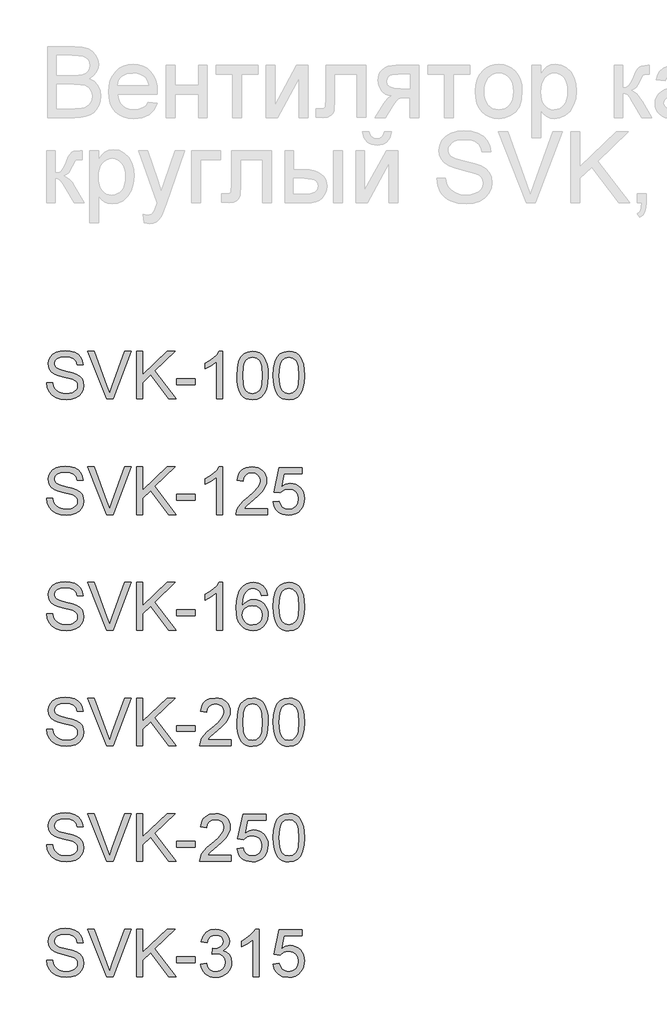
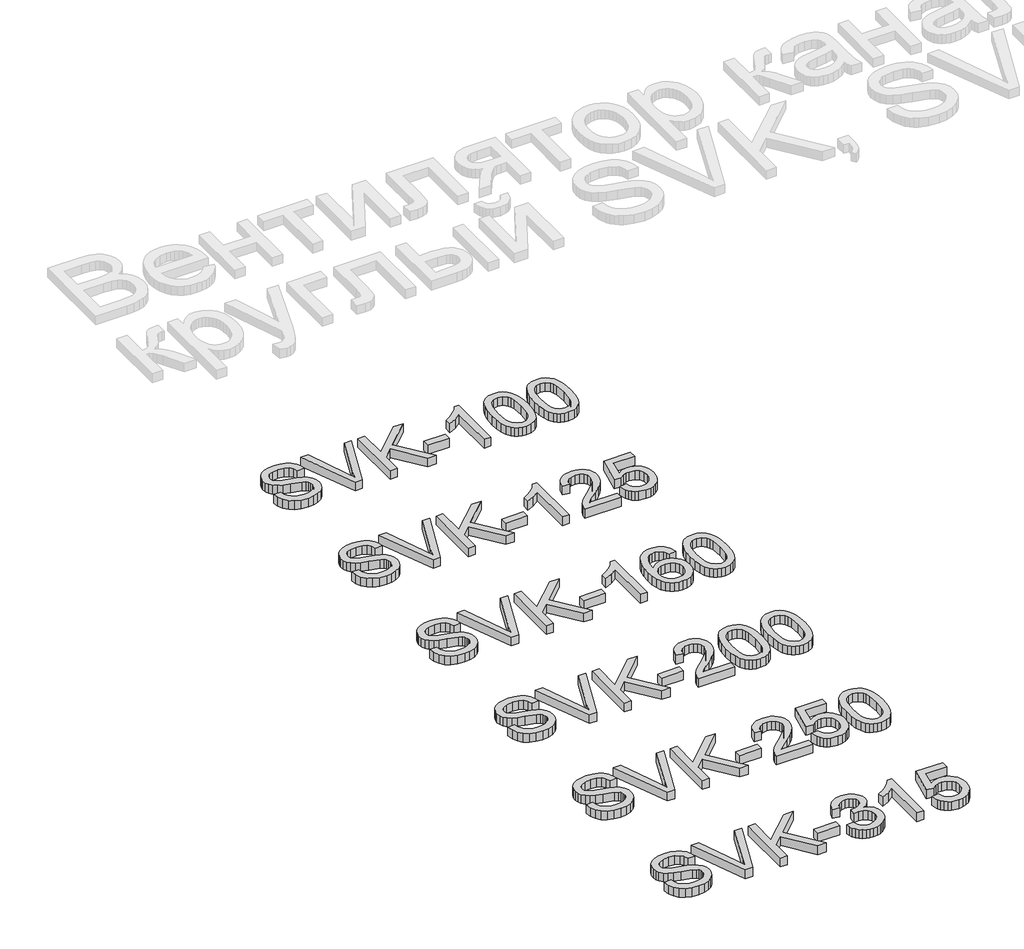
# One storey, part 15 of 31: 1 proxy.
"""IFC4 building model written with IfcOpenShell, lengths in millimetres."""

from ifc_helpers import new_model, si_unit, origin, origin_with_axes, place, context, project, spatial, polyline, outline, extrude, element, save

model = new_model("IFC4")

# Units and contexts
model_context = context("Model", 3, world=origin())
ifc_project = project(units=[si_unit("LENGTHUNIT", "METRE", prefix="MILLI")], contexts=[model_context])

# Site, building, storey
site = spatial("IfcSite", under=ifc_project)
building = spatial("IfcBuilding", under=site)
storey = spatial("IfcBuildingStorey", under=building, Name="Этаж 01", Elevation=0.0)

# Proxy
placement = place(None, origin())
element("IfcBuildingElementProxy", 1, Name="300 мм Arial", ObjectType="300 мм Arial", at=placement, inside=storey, context=model_context, shape_type="SweptSolid", body=[
    extrude(outline(polyline([(813.2877892, -4158.3827282), (850.9589055, -4158.3827282), (855.281519, -4179.2876225), (863.0990114, -4196.0906327), (875.2942995, -4209.426355), (892.7503002, -4219.9293859), (914.0874559, -4226.7443999), (937.9262092, -4229.0160712), (958.913877, -4227.2962229), (977.2895827, -4222.1366779), (992.1796064, -4213.9696976), (1002.7102286, -4203.2275434), (1008.9734195, -4190.8942995), (1011.0611498, -4177.9540503), (1009.4976514, -4165.3448949), (1004.8071559, -4154.4463908), (995.2790122, -4145.1481734), (979.2025691, -4137.339878), (924.3513636, -4122.955692), (888.3449133, -4113.4367454), (865.3063034, -4104.3776513), (846.5535186, -4091.7041165), (833.2637816, -4076.3450432), (825.3451216, -4058.6315252), (822.7055683, -4038.8946561), (825.970521, -4016.8309335), (835.7653791, -3996.2571329), (851.8326253, -3978.8195263), (873.914742, -3966.1643857), (900.4206398, -3958.4664549), (929.7592289, -3955.900478), (961.5442333, -3958.5860166), (989.3561121, -3966.6426323), (1012.201584, -3979.9047782), (1029.0873676, -3998.2069075), (1039.7743396, -4020.4085859), (1044.0233766, -4045.3693792), (1006.3522603, -4045.3693792), (999.4360788, -4022.8917893), (985.0151046, -4006.6681933), (962.4823324, -3996.8457441), (931.2307569, -3993.5715943), (899.2434174, -3996.8089559), (877.2992564, -4006.5210405), (864.6073276, -4020.8132561), (860.3766846, -4037.7910101), (863.3749229, -4052.2671666), (872.3696377, -4063.9106318), (893.633217, -4074.3216923), (933.8795073, -4084.9534819), (975.4133845, -4095.0518427), (1000.5397248, -4103.8626165), (1022.0148362, -4117.5294326), (1036.9968305, -4134.3968221), (1045.7984072, -4154.2808439), (1048.7322661, -4176.9975571), (1045.3569488, -4200.2201081), (1035.2309969, -4222.0631015), (1018.7682776, -4240.8618715), (996.3826582, -4254.9517519), (969.4628932, -4263.7533286), (939.3977372, -4266.6871875), (902.489976, -4263.5234024), (872.1121203, -4254.0320469), (847.914682, -4238.1763329), (829.5481734, -4215.9194722), (817.7575555, -4188.8065692), (813.2877892, -4158.3827282)])), origin_with_axes(), (0.0, 0.0, 1.0), 50.0),
    extrude(outline(polyline([(1194.2663834, -4261.978298), (1074.336853, -3960.6093675), (1114.6567197, -3960.6093675), (1194.928571, -4177.7333211), (1211.1889552, -4226.6616265), (1227.2286102, -4177.7333211), (1307.7211908, -3960.6093675), (1348.0410574, -3960.6093675), (1233.1882985, -4261.978298), (1194.2663834, -4261.978298)])), origin_with_axes(), (0.0, 0.0, 1.0), 50.0),
    extrude(outline(polyline([(1383.0634234, -4261.978298), (1383.0634234, -3960.6093675), (1420.7345397, -3960.6093675), (1420.7345397, -4108.1300476), (1575.2449776, -3960.6093675), (1627.9256794, -3960.6093675), (1498.2104879, -4084.5120235), (1632.6345689, -4261.978298), (1586.5757431, -4261.978298), (1471.502255, -4109.9694576), (1420.7345397, -4158.3827282), (1420.7345397, -4261.978298), (1383.0634234, -4261.978298)])), origin_with_axes(), (0.0, 0.0, 1.0), 50.0),
    extrude(outline(polyline([(1637.3434584, -4172.5093968), (1637.3434584, -4134.8382805), (1755.0656969, -4134.8382805), (1755.0656969, -4172.5093968), (1637.3434584, -4172.5093968)])), origin_with_axes(), (0.0, 0.0, 1.0), 50.0),
    extrude(outline(polyline([(1929.2946098, -4261.978298), (1891.6234935, -4261.978298), (1891.6234935, -4027.1224323), (1855.93894, -4052.5430781), (1816.2812609, -4071.5625773), (1816.2812609, -4035.9516002), (1845.8681703, -4019.8567629), (1871.5003484, -4000.708505), (1891.7062669, -3980.3462366), (1905.0143981, -3960.6093675), (1929.2946098, -3960.6093675), (1929.2946098, -4261.978298)])), origin_with_axes(), (0.0, 0.0, 1.0), 50.0),
    extrude(outline(polyline([(2018.763511, -4113.7218539), (2021.531823, -4065.4833273), (2029.8367591, -4027.0120677), (2043.5955457, -3997.7194638), (2062.7254095, -3977.0169045), (2087.3643061, -3964.7112518), (2117.6501913, -3960.6093675), (2140.8635452, -3963.0373887), (2161.648878, -3970.3214522), (2179.0313022, -3982.1764495), (2192.0359308, -3998.3172721), (2201.85838, -4018.6059641), (2209.6942665, -4042.9045699), (2214.8262204, -4073.7606722), (2216.5368716, -4113.7218539), (2213.7961508, -4161.6844691), (2205.5739882, -4200.0637582), (2191.897975, -4229.3839532), (2172.7957024, -4250.1692859), (2148.1016235, -4262.5577121), (2117.6501913, -4266.6871875), (2096.9016468, -4264.8937628), (2078.507547, -4259.5134886), (2062.4678921, -4250.546365), (2048.7826818, -4237.9923919), (2035.6492946, -4215.2986713), (2026.2683037, -4187.0223415), (2020.6397092, -4153.1634023), (2018.763511, -4113.7218539)]), holes=[polyline([(2056.4346273, -4113.6482775), (2060.8492113, -4172.9048699), (2066.3674412, -4193.1728686), (2074.0929631, -4207.2006689), (2093.811438, -4223.5622206), (2117.6501913, -4229.0160712), (2141.4889446, -4223.5438265), (2161.2074196, -4207.1270925), (2168.9329415, -4193.0762996), (2174.4511714, -4172.8128994), (2178.8657553, -4113.6482775), (2174.5983242, -4055.7252574), (2169.2640353, -4035.5239373), (2161.7960308, -4021.162744), (2142.114344, -4004.0010489), (2117.2087329, -3998.2804839), (2093.627497, -4003.3204672), (2074.6815743, -4018.4404172), (2066.698535, -4034.075402), (2060.9963641, -4055.1550403), (2056.4346273, -4113.6482775)])]), origin_with_axes(), (0.0, 0.0, 1.0), 50.0),
    extrude(outline(polyline([(2249.4990984, -4113.7218539), (2252.2674104, -4065.4833273), (2260.5723465, -4027.0120677), (2274.3311331, -3997.7194638), (2293.4609968, -3977.0169045), (2318.0998935, -3964.7112518), (2348.3857787, -3960.6093675), (2371.5991326, -3963.0373887), (2392.3844653, -3970.3214522), (2409.7668896, -3982.1764495), (2422.7715181, -3998.3172721), (2432.5939674, -4018.6059641), (2440.4298539, -4042.9045699), (2445.5618077, -4073.7606722), (2447.272459, -4113.7218539), (2444.5317381, -4161.6844691), (2436.3095756, -4200.0637582), (2422.6335624, -4229.3839532), (2403.5312898, -4250.1692859), (2378.8372109, -4262.5577121), (2348.3857787, -4266.6871875), (2327.6372342, -4264.8937628), (2309.2431344, -4259.5134886), (2293.2034794, -4250.546365), (2279.5182692, -4237.9923919), (2266.384882, -4215.2986713), (2257.0038911, -4187.0223415), (2251.3752966, -4153.1634023), (2249.4990984, -4113.7218539)]), holes=[polyline([(2287.1702147, -4113.6482775), (2291.5847987, -4172.9048699), (2297.1030286, -4193.1728686), (2304.8285505, -4207.2006689), (2324.5470254, -4223.5622206), (2348.3857787, -4229.0160712), (2372.224532, -4223.5438265), (2391.9430069, -4207.1270925), (2399.6685288, -4193.0762996), (2405.1867588, -4172.8128994), (2409.6013427, -4113.6482775), (2405.3339116, -4055.7252574), (2399.9996226, -4035.5239373), (2392.5316181, -4021.162744), (2372.8499314, -4004.0010489), (2347.9443203, -3998.2804839), (2324.3630844, -4003.3204672), (2305.4171617, -4018.4404172), (2297.4341224, -4034.075402), (2291.7319515, -4055.1550403), (2287.1702147, -4113.6482775)])]), origin_with_axes(), (0.0, 0.0, 1.0), 50.0),
    extrude(outline(polyline([(813.2877892, -4890.2316352), (850.9589055, -4890.2316352), (855.281519, -4911.1365296), (863.0990114, -4927.9395397), (875.2942995, -4941.2752621), (892.7503002, -4951.778293), (914.0874559, -4958.593307), (937.9262092, -4960.8649783), (958.913877, -4959.14513), (977.2895827, -4953.985585), (992.1796064, -4945.8186047), (1002.7102286, -4935.0764504), (1008.9734195, -4922.7432065), (1011.0611498, -4909.8029574), (1009.4976514, -4897.193802), (1004.8071559, -4886.2952979), (995.2790122, -4876.9970804), (979.2025691, -4869.1887851), (924.3513636, -4854.8045991), (888.3449133, -4845.2856525), (865.3063034, -4836.2265583), (846.5535186, -4823.5530236), (833.2637816, -4808.1939503), (825.3451216, -4790.4804322), (822.7055683, -4770.7435632), (825.970521, -4748.6798405), (835.7653791, -4728.1060399), (851.8326253, -4710.6684334), (873.914742, -4698.0132927), (900.4206398, -4690.315362), (929.7592289, -4687.7493851), (961.5442333, -4690.4349236), (989.3561121, -4698.4915393), (1012.201584, -4711.7536853), (1029.0873676, -4730.0558145), (1039.7743396, -4752.2574929), (1044.0233766, -4777.2182863), (1006.3522603, -4777.2182863), (999.4360788, -4754.7406964), (985.0151046, -4738.5171004), (962.4823324, -4728.6946511), (931.2307569, -4725.4205014), (899.2434174, -4728.6578629), (877.2992564, -4738.3699476), (864.6073276, -4752.6621631), (860.3766846, -4769.6399172), (863.3749229, -4784.1160737), (872.3696377, -4795.7595389), (893.633217, -4806.1705993), (933.8795073, -4816.802389), (975.4133845, -4826.9007498), (1000.5397248, -4835.7115235), (1022.0148362, -4849.3783397), (1036.9968305, -4866.2457291), (1045.7984072, -4886.129751), (1048.7322661, -4908.8464642), (1045.3569488, -4932.0690151), (1035.2309969, -4953.9120086), (1018.7682776, -4972.7107785), (996.3826582, -4986.800659), (969.4628932, -4995.6022357), (939.3977372, -4998.5360946), (902.489976, -4995.3723094), (872.1121203, -4985.880954), (847.914682, -4970.02524), (829.5481734, -4947.7683793), (817.7575555, -4920.6554762), (813.2877892, -4890.2316352)])), origin_with_axes(), (0.0, 0.0, 1.0), 50.0),
    extrude(outline(polyline([(1194.2663834, -4993.8272051), (1074.336853, -4692.4582746), (1114.6567197, -4692.4582746), (1194.928571, -4909.5822282), (1211.1889552, -4958.5105335), (1227.2286102, -4909.5822282), (1307.7211908, -4692.4582746), (1348.0410574, -4692.4582746), (1233.1882985, -4993.8272051), (1194.2663834, -4993.8272051)])), origin_with_axes(), (0.0, 0.0, 1.0), 50.0),
    extrude(outline(polyline([(1383.0634234, -4993.8272051), (1383.0634234, -4692.4582746), (1420.7345397, -4692.4582746), (1420.7345397, -4839.9789547), (1575.2449776, -4692.4582746), (1627.9256794, -4692.4582746), (1498.2104879, -4816.3609306), (1632.6345689, -4993.8272051), (1586.5757431, -4993.8272051), (1471.502255, -4841.8183647), (1420.7345397, -4890.2316352), (1420.7345397, -4993.8272051), (1383.0634234, -4993.8272051)])), origin_with_axes(), (0.0, 0.0, 1.0), 50.0),
    extrude(outline(polyline([(1637.3434584, -4904.3583038), (1637.3434584, -4866.6871875), (1755.0656969, -4866.6871875), (1755.0656969, -4904.3583038), (1637.3434584, -4904.3583038)])), origin_with_axes(), (0.0, 0.0, 1.0), 50.0),
    extrude(outline(polyline([(1929.2946098, -4993.8272051), (1891.6234935, -4993.8272051), (1891.6234935, -4758.9713393), (1855.93894, -4784.3919852), (1816.2812609, -4803.4114844), (1816.2812609, -4767.8005072), (1845.8681703, -4751.7056699), (1871.5003484, -4732.5574121), (1891.7062669, -4712.1951437), (1905.0143981, -4692.4582746), (1929.2946098, -4692.4582746), (1929.2946098, -4993.8272051)])), origin_with_axes(), (0.0, 0.0, 1.0), 50.0),
    extrude(outline(polyline([(2211.8279821, -4956.1560888), (2211.8279821, -4993.8272051), (2014.0546215, -4993.8272051), (2018.1013234, -4967.8547362), (2027.3903438, -4947.5568471), (2040.9835835, -4927.8659633), (2060.6468762, -4907.2553746), (2088.1460553, -4884.1983705), (2128.7970158, -4848.0907527), (2153.1875921, -4821.4377021), (2165.3828802, -4799.8062408), (2169.4479763, -4778.7633907), (2165.6128065, -4759.9002414), (2154.1072971, -4744.2192713), (2136.4213701, -4733.651861), (2114.0449478, -4730.1293909), (2090.5464853, -4733.5690876), (2072.2903413, -4743.8881775), (2060.5089204, -4760.2773204), (2056.4346273, -4781.9271758), (2018.763511, -4777.2182863), (2027.8961816, -4740.7795747), (2036.4425402, -4726.2436373), (2047.6422477, -4714.1633123), (2061.2377866, -4704.6673583), (2076.9716397, -4697.884534), (2114.8542882, -4692.4582746), (2135.0441119, -4693.9665908), (2153.0128481, -4698.4915393), (2168.7604968, -4706.0331202), (2182.2870579, -4716.5913335), (2193.1510731, -4729.3844299), (2200.9110839, -4743.6306601), (2205.5670904, -4759.3300243), (2207.1190926, -4776.4825223), (2205.4452295, -4794.499543), (2200.4236402, -4812.203864), (2191.5116989, -4830.2116877), (2178.1667795, -4849.1392164), (2156.8940032, -4871.7363679), (2124.1984908, -4900.7530603), (2080.8619918, -4936.9894368), (2063.8658436, -4956.1560888), (2211.8279821, -4956.1560888)])), origin_with_axes(), (0.0, 0.0, 1.0), 50.0),
    extrude(outline(polyline([(2249.4990984, -4913.7760829), (2287.1702147, -4909.0671934), (2294.0863962, -4931.682739), (2306.1529257, -4947.8787439), (2323.3146207, -4957.6184197), (2345.5162991, -4960.8649783), (2372.5188376, -4956.3492268), (2392.7523473, -4942.8019723), (2405.3890939, -4921.7867134), (2409.6013427, -4894.8669484), (2405.6558083, -4869.5198789), (2393.8192051, -4850.1324977), (2373.9995626, -4837.826845), (2346.1049103, -4833.7249608), (2327.8303722, -4835.3620356), (2313.032319, -4840.2732603), (2291.8791042, -4857.2694085), (2254.2079879, -4852.5605189), (2287.1702147, -4697.1671642), (2433.1457904, -4697.1671642), (2433.1457904, -4734.8382805), (2317.6308439, -4734.8382805), (2301.5176125, -4817.8324586), (2328.4281805, -4801.498498), (2356.6263354, -4796.0538445), (2374.9721506, -4797.7415031), (2391.8234453, -4802.8044791), (2407.1802193, -4811.2427723), (2421.0424728, -4823.0563829), (2432.5180917, -4837.5233424), (2440.7149624, -4853.9216823), (2445.6330849, -4872.2514027), (2447.272459, -4892.5125036), (2441.367953, -4930.1836199), (2433.9873205, -4946.977433), (2423.6544349, -4962.4100827), (2408.001056, -4978.2152129), (2389.735715, -4989.5045916), (2368.8584117, -4996.2782189), (2345.3691463, -4998.5360946), (2308.3694147, -4992.7327561), (2292.6907439, -4985.478583), (2278.8928698, -4975.3227407), (2267.4126523, -4962.7710669), (2258.6869512, -4948.3293993), (2249.4990984, -4913.7760829)])), origin_with_axes(), (0.0, 0.0, 1.0), 50.0),
    extrude(outline(polyline([(813.2877892, -5622.0805423), (850.9589055, -5622.0805423), (855.281519, -5642.9854367), (863.0990114, -5659.7884468), (875.2942995, -5673.1241691), (892.7503002, -5683.6272001), (914.0874559, -5690.442214), (937.9262092, -5692.7138854), (958.913877, -5690.994037), (977.2895827, -5685.8344921), (992.1796064, -5677.6675118), (1002.7102286, -5666.9253575), (1008.9734195, -5654.5921136), (1011.0611498, -5641.6518644), (1009.4976514, -5629.0427091), (1004.8071559, -5618.1442049), (995.2790122, -5608.8459875), (979.2025691, -5601.0376922), (924.3513636, -5586.6535062), (888.3449133, -5577.1345595), (865.3063034, -5568.0754654), (846.5535186, -5555.4019307), (833.2637816, -5540.0428574), (825.3451216, -5522.3293393), (822.7055683, -5502.5924703), (825.970521, -5480.5287476), (835.7653791, -5459.954947), (851.8326253, -5442.5173404), (873.914742, -5429.8621998), (900.4206398, -5422.1642691), (929.7592289, -5419.5982921), (961.5442333, -5422.2838307), (989.3561121, -5430.3404464), (1012.201584, -5443.6025923), (1029.0873676, -5461.9047216), (1039.7743396, -5484.1064), (1044.0233766, -5509.0671934), (1006.3522603, -5509.0671934), (999.4360788, -5486.5896035), (985.0151046, -5470.3660075), (962.4823324, -5460.5435582), (931.2307569, -5457.2694085), (899.2434174, -5460.50677), (877.2992564, -5470.2188547), (864.6073276, -5484.5110702), (860.3766846, -5501.4888243), (863.3749229, -5515.9649808), (872.3696377, -5527.6084459), (893.633217, -5538.0195064), (933.8795073, -5548.6512961), (975.4133845, -5558.7496568), (1000.5397248, -5567.5604306), (1022.0148362, -5581.2272467), (1036.9968305, -5598.0946362), (1045.7984072, -5617.978658), (1048.7322661, -5640.6953713), (1045.3569488, -5663.9179222), (1035.2309969, -5685.7609157), (1018.7682776, -5704.5596856), (996.3826582, -5718.649566), (969.4628932, -5727.4511428), (939.3977372, -5730.3850017), (902.489976, -5727.2212165), (872.1121203, -5717.729861), (847.914682, -5701.874147), (829.5481734, -5679.6172863), (817.7575555, -5652.5043833), (813.2877892, -5622.0805423)])), origin_with_axes(), (0.0, 0.0, 1.0), 50.0),
    extrude(outline(polyline([(1194.2663834, -5725.6761121), (1074.336853, -5424.3071817), (1114.6567197, -5424.3071817), (1194.928571, -5641.4311352), (1211.1889552, -5690.3594406), (1227.2286102, -5641.4311352), (1307.7211908, -5424.3071817), (1348.0410574, -5424.3071817), (1233.1882985, -5725.6761121), (1194.2663834, -5725.6761121)])), origin_with_axes(), (0.0, 0.0, 1.0), 50.0),
    extrude(outline(polyline([(1383.0634234, -5725.6761121), (1383.0634234, -5424.3071817), (1420.7345397, -5424.3071817), (1420.7345397, -5571.8278618), (1575.2449776, -5424.3071817), (1627.9256794, -5424.3071817), (1498.2104879, -5548.2098377), (1632.6345689, -5725.6761121), (1586.5757431, -5725.6761121), (1471.502255, -5573.6672717), (1420.7345397, -5622.0805423), (1420.7345397, -5725.6761121), (1383.0634234, -5725.6761121)])), origin_with_axes(), (0.0, 0.0, 1.0), 50.0),
    extrude(outline(polyline([(1637.3434584, -5636.2072109), (1637.3434584, -5598.5360946), (1755.0656969, -5598.5360946), (1755.0656969, -5636.2072109), (1637.3434584, -5636.2072109)])), origin_with_axes(), (0.0, 0.0, 1.0), 50.0),
    extrude(outline(polyline([(1929.2946098, -5725.6761121), (1891.6234935, -5725.6761121), (1891.6234935, -5490.8202464), (1855.93894, -5516.2408923), (1816.2812609, -5535.2603914), (1816.2812609, -5499.6494143), (1845.8681703, -5483.554577), (1871.5003484, -5464.4063192), (1891.7062669, -5444.0440507), (1905.0143981, -5424.3071817), (1929.2946098, -5424.3071817), (1929.2946098, -5725.6761121)])), origin_with_axes(), (0.0, 0.0, 1.0), 50.0),
    extrude(outline(polyline([(2211.8279821, -5504.3583038), (2174.1568658, -5509.0671934), (2168.0868129, -5490.3971821), (2159.8830444, -5477.650071), (2142.7949257, -5465.8962412), (2122.1383517, -5461.978298), (2104.6271687, -5464.2591664), (2088.1460553, -5471.1017715), (2073.9917956, -5485.5135486), (2062.4311039, -5505.3515852), (2054.6228085, -5533.4117844), (2051.7257378, -5572.4900493), (2066.8364907, -5554.8593047), (2084.945482, -5542.4340903), (2105.0410359, -5535.0672534), (2126.1114772, -5532.6116411), (2144.2112714, -5534.2901027), (2160.913114, -5539.3254875), (2176.217005, -5547.7177955), (2190.1229444, -5559.4670267), (2201.6790376, -5573.8742054), (2209.9333898, -5590.2403556), (2214.8860012, -5608.5654775), (2216.5368716, -5628.849571), (2213.4282688, -5655.8245183), (2204.1024602, -5680.8312969), (2189.3319981, -5702.0396939), (2169.8894346, -5717.6194964), (2146.6576867, -5727.1936254), (2120.5196709, -5730.3850017), (2098.0627744, -5728.2696802), (2077.7809801, -5721.9237158), (2059.6742882, -5711.3471084), (2043.7426985, -5696.5398581), (2030.7541648, -5676.8765655), (2021.4766407, -5651.7318311), (2015.9101263, -5621.105655), (2014.0546215, -5584.9980372), (2016.1147607, -5544.5172221), (2022.2951782, -5509.9685043), (2032.595874, -5481.3518836), (2047.0168483, -5458.66736), (2062.6472345, -5443.634782), (2080.7700213, -5432.8972263), (2101.3852086, -5426.4546928), (2124.4927964, -5424.3071817), (2157.5469937, -5429.6230765), (2184.0161033, -5445.570761), (2202.5573558, -5470.8994364), (2211.8279821, -5504.3583038)]), holes=[polyline([(2051.7257378, -5628.2609598), (2053.9054386, -5644.9536053), (2060.4445411, -5660.8920928), (2070.5980842, -5674.5956971), (2083.6211068, -5684.5836933), (2099.338865, -5690.6813373), (2117.5766149, -5692.7138854), (2142.4362408, -5688.5016365), (2161.9799718, -5675.86489), (2174.6443094, -5655.9992623), (2178.8657553, -5630.1003698), (2174.6994917, -5605.240744), (2162.2007009, -5586.2856242), (2142.3258762, -5574.2834741), (2116.0315106, -5570.2827574), (2091.2086729, -5574.2834741), (2070.4509314, -5586.2856242), (2056.4070362, -5604.7808915), (2051.7257378, -5628.2609598)])]), origin_with_axes(), (0.0, 0.0, 1.0), 50.0),
    extrude(outline(polyline([(2249.4990984, -5577.4196681), (2252.2674104, -5529.1811415), (2260.5723465, -5490.7098818), (2274.3311331, -5461.417278), (2293.4609968, -5440.7147187), (2318.0998935, -5428.4090659), (2348.3857787, -5424.3071817), (2371.5991326, -5426.7352029), (2392.3844653, -5434.0192664), (2409.7668896, -5445.8742637), (2422.7715181, -5462.0150862), (2432.5939674, -5482.3037782), (2440.4298539, -5506.602384), (2445.5618077, -5537.4584864), (2447.272459, -5577.4196681), (2444.5317381, -5625.3822832), (2436.3095756, -5663.7615723), (2422.6335624, -5693.0817674), (2403.5312898, -5713.8671001), (2378.8372109, -5726.2555263), (2348.3857787, -5730.3850017), (2327.6372342, -5728.5915769), (2309.2431344, -5723.2113028), (2293.2034794, -5714.2441791), (2279.5182692, -5701.6902061), (2266.384882, -5678.9964855), (2257.0038911, -5650.7201556), (2251.3752966, -5616.8612165), (2249.4990984, -5577.4196681)]), holes=[polyline([(2287.1702147, -5577.3460917), (2291.5847987, -5636.6026841), (2297.1030286, -5656.8706827), (2304.8285505, -5670.8984831), (2324.5470254, -5687.2600348), (2348.3857787, -5692.7138854), (2372.224532, -5687.2416407), (2391.9430069, -5670.8249067), (2399.6685288, -5656.7741137), (2405.1867588, -5636.5107136), (2409.6013427, -5577.3460917), (2405.3339116, -5519.4230715), (2399.9996226, -5499.2217515), (2392.5316181, -5484.8605581), (2372.8499314, -5467.698863), (2347.9443203, -5461.978298), (2324.3630844, -5467.0182813), (2305.4171617, -5482.1382313), (2297.4341224, -5497.7732161), (2291.7319515, -5518.8528544), (2287.1702147, -5577.3460917)])]), origin_with_axes(), (0.0, 0.0, 1.0), 50.0),
    extrude(outline(polyline([(813.2877892, -6353.9294494), (850.9589055, -6353.9294494), (855.281519, -6374.8343437), (863.0990114, -6391.6373539), (875.2942995, -6404.9730762), (892.7503002, -6415.4761072), (914.0874559, -6422.2911211), (937.9262092, -6424.5627924), (958.913877, -6422.8429441), (977.2895827, -6417.6833991), (992.1796064, -6409.5164188), (1002.7102286, -6398.7742646), (1008.9734195, -6386.4410207), (1011.0611498, -6373.5007715), (1009.4976514, -6360.8916161), (1004.8071559, -6349.993112), (995.2790122, -6340.6948946), (979.2025691, -6332.8865992), (924.3513636, -6318.5024132), (888.3449133, -6308.9834666), (865.3063034, -6299.9243725), (846.5535186, -6287.2508377), (833.2637816, -6271.8917644), (825.3451216, -6254.1782464), (822.7055683, -6234.4413773), (825.970521, -6212.3776547), (835.7653791, -6191.8038541), (851.8326253, -6174.3662475), (873.914742, -6161.7111069), (900.4206398, -6154.0131761), (929.7592289, -6151.4471992), (961.5442333, -6154.1327378), (989.3561121, -6162.1893535), (1012.201584, -6175.4514994), (1029.0873676, -6193.7536287), (1039.7743396, -6215.9553071), (1044.0233766, -6240.9161004), (1006.3522603, -6240.9161004), (999.4360788, -6218.4385105), (985.0151046, -6202.2149146), (962.4823324, -6192.3924653), (931.2307569, -6189.1183155), (899.2434174, -6192.3556771), (877.2992564, -6202.0677618), (864.6073276, -6216.3599773), (860.3766846, -6233.3377313), (863.3749229, -6247.8138879), (872.3696377, -6259.457353), (893.633217, -6269.8684135), (933.8795073, -6280.5002031), (975.4133845, -6290.5985639), (1000.5397248, -6299.4093377), (1022.0148362, -6313.0761538), (1036.9968305, -6329.9435433), (1045.7984072, -6349.8275651), (1048.7322661, -6372.5442783), (1045.3569488, -6395.7668293), (1035.2309969, -6417.6098227), (1018.7682776, -6436.4085927), (996.3826582, -6450.4984731), (969.4628932, -6459.3000498), (939.3977372, -6462.2339087), (902.489976, -6459.0701236), (872.1121203, -6449.5787681), (847.914682, -6433.7230541), (829.5481734, -6411.4661934), (817.7575555, -6384.3532904), (813.2877892, -6353.9294494)])), origin_with_axes(), (0.0, 0.0, 1.0), 50.0),
    extrude(outline(polyline([(1194.2663834, -6457.5250192), (1074.336853, -6156.1560888), (1114.6567197, -6156.1560888), (1194.928571, -6373.2800423), (1211.1889552, -6422.2083477), (1227.2286102, -6373.2800423), (1307.7211908, -6156.1560888), (1348.0410574, -6156.1560888), (1233.1882985, -6457.5250192), (1194.2663834, -6457.5250192)])), origin_with_axes(), (0.0, 0.0, 1.0), 50.0),
    extrude(outline(polyline([(1383.0634234, -6457.5250192), (1383.0634234, -6156.1560888), (1420.7345397, -6156.1560888), (1420.7345397, -6303.6767688), (1575.2449776, -6156.1560888), (1627.9256794, -6156.1560888), (1498.2104879, -6280.0587447), (1632.6345689, -6457.5250192), (1586.5757431, -6457.5250192), (1471.502255, -6305.5161788), (1420.7345397, -6353.9294494), (1420.7345397, -6457.5250192), (1383.0634234, -6457.5250192)])), origin_with_axes(), (0.0, 0.0, 1.0), 50.0),
    extrude(outline(polyline([(1637.3434584, -6368.056118), (1637.3434584, -6330.3850017), (1755.0656969, -6330.3850017), (1755.0656969, -6368.056118), (1637.3434584, -6368.056118)])), origin_with_axes(), (0.0, 0.0, 1.0), 50.0),
    extrude(outline(polyline([(1981.0923947, -6419.8539029), (1981.0923947, -6457.5250192), (1783.3190341, -6457.5250192), (1787.3657361, -6431.5525503), (1796.6547564, -6411.2546613), (1810.2479962, -6391.5637775), (1829.9112888, -6370.9531887), (1857.4104679, -6347.8961846), (1898.0614284, -6311.7885668), (1922.4520047, -6285.1355163), (1934.6472928, -6263.504055), (1938.7123889, -6242.4612048), (1934.8772191, -6223.5980555), (1923.3717097, -6207.9170855), (1905.6857828, -6197.3496752), (1883.3093604, -6193.8272051), (1859.810898, -6197.2669017), (1841.554754, -6207.5859917), (1829.7733331, -6223.9751346), (1825.69904, -6245.62499), (1788.0279237, -6240.9161004), (1797.1605942, -6204.4773888), (1805.7069528, -6189.9414515), (1816.9066603, -6177.8611265), (1830.5021993, -6168.3651725), (1846.2360523, -6161.5823482), (1884.1187008, -6156.1560888), (1904.3085245, -6157.6644049), (1922.2772607, -6162.1893535), (1938.0249094, -6169.7309344), (1951.5514705, -6180.2891476), (1962.4154857, -6193.082244), (1970.1754965, -6207.3284743), (1974.831503, -6223.0278384), (1976.3835052, -6240.1803365), (1974.7096421, -6258.1973572), (1969.6880529, -6275.9016782), (1960.7761115, -6293.9095019), (1947.4311922, -6312.8370305), (1926.1584158, -6335.4341821), (1893.4629035, -6364.4508744), (1850.1264044, -6400.687251), (1833.1302563, -6419.8539029), (1981.0923947, -6419.8539029)])), origin_with_axes(), (0.0, 0.0, 1.0), 50.0),
    extrude(outline(polyline([(2018.763511, -6309.2685752), (2021.531823, -6261.0300485), (2029.8367591, -6222.5587889), (2043.5955457, -6193.266185), (2062.7254095, -6172.5636257), (2087.3643061, -6160.257973), (2117.6501913, -6156.1560888), (2140.8635452, -6158.5841099), (2161.648878, -6165.8681734), (2179.0313022, -6177.7231707), (2192.0359308, -6193.8639933), (2201.85838, -6214.1526853), (2209.6942665, -6238.4512911), (2214.8262204, -6269.3073934), (2216.5368716, -6309.2685752), (2213.7961508, -6357.2311903), (2205.5739882, -6395.6104794), (2191.897975, -6424.9306744), (2172.7957024, -6445.7160072), (2148.1016235, -6458.1044334), (2117.6501913, -6462.2339087), (2096.9016468, -6460.440484), (2078.507547, -6455.0602098), (2062.4678921, -6446.0930862), (2048.7826818, -6433.5391131), (2035.6492946, -6410.8453925), (2026.2683037, -6382.5690627), (2020.6397092, -6348.7101236), (2018.763511, -6309.2685752)]), holes=[polyline([(2056.4346273, -6309.1949988), (2060.8492113, -6368.4515911), (2066.3674412, -6388.7195898), (2074.0929631, -6402.7473901), (2093.811438, -6419.1089419), (2117.6501913, -6424.5627924), (2141.4889446, -6419.0905478), (2161.2074196, -6402.6738137), (2168.9329415, -6388.6230208), (2174.4511714, -6368.3596206), (2178.8657553, -6309.1949988), (2174.5983242, -6251.2719786), (2169.2640353, -6231.0706586), (2161.7960308, -6216.7094652), (2142.114344, -6199.5477701), (2117.2087329, -6193.8272051), (2093.627497, -6198.8671884), (2074.6815743, -6213.9871384), (2066.698535, -6229.6221232), (2060.9963641, -6250.7017615), (2056.4346273, -6309.1949988)])]), origin_with_axes(), (0.0, 0.0, 1.0), 50.0),
    extrude(outline(polyline([(2249.4990984, -6309.2685752), (2252.2674104, -6261.0300485), (2260.5723465, -6222.5587889), (2274.3311331, -6193.266185), (2293.4609968, -6172.5636257), (2318.0998935, -6160.257973), (2348.3857787, -6156.1560888), (2371.5991326, -6158.5841099), (2392.3844653, -6165.8681734), (2409.7668896, -6177.7231707), (2422.7715181, -6193.8639933), (2432.5939674, -6214.1526853), (2440.4298539, -6238.4512911), (2445.5618077, -6269.3073934), (2447.272459, -6309.2685752), (2444.5317381, -6357.2311903), (2436.3095756, -6395.6104794), (2422.6335624, -6424.9306744), (2403.5312898, -6445.7160072), (2378.8372109, -6458.1044334), (2348.3857787, -6462.2339087), (2327.6372342, -6460.440484), (2309.2431344, -6455.0602098), (2293.2034794, -6446.0930862), (2279.5182692, -6433.5391131), (2266.384882, -6410.8453925), (2257.0038911, -6382.5690627), (2251.3752966, -6348.7101236), (2249.4990984, -6309.2685752)]), holes=[polyline([(2287.1702147, -6309.1949988), (2291.5847987, -6368.4515911), (2297.1030286, -6388.7195898), (2304.8285505, -6402.7473901), (2324.5470254, -6419.1089419), (2348.3857787, -6424.5627924), (2372.224532, -6419.0905478), (2391.9430069, -6402.6738137), (2399.6685288, -6388.6230208), (2405.1867588, -6368.3596206), (2409.6013427, -6309.1949988), (2405.3339116, -6251.2719786), (2399.9996226, -6231.0706586), (2392.5316181, -6216.7094652), (2372.8499314, -6199.5477701), (2347.9443203, -6193.8272051), (2324.3630844, -6198.8671884), (2305.4171617, -6213.9871384), (2297.4341224, -6229.6221232), (2291.7319515, -6250.7017615), (2287.1702147, -6309.1949988)])]), origin_with_axes(), (0.0, 0.0, 1.0), 50.0),
    extrude(outline(polyline([(813.2877892, -7085.7783564), (850.9589055, -7085.7783564), (855.281519, -7106.6832508), (863.0990114, -7123.4862609), (875.2942995, -7136.8219833), (892.7503002, -7147.3250142), (914.0874559, -7154.1400282), (937.9262092, -7156.4116995), (958.913877, -7154.6918512), (977.2895827, -7149.5323062), (992.1796064, -7141.3653259), (1002.7102286, -7130.6231716), (1008.9734195, -7118.2899278), (1011.0611498, -7105.3496786), (1009.4976514, -7092.7405232), (1004.8071559, -7081.8420191), (995.2790122, -7072.5438017), (979.2025691, -7064.7355063), (924.3513636, -7050.3513203), (888.3449133, -7040.8323737), (865.3063034, -7031.7732795), (846.5535186, -7019.0997448), (833.2637816, -7003.7406715), (825.3451216, -6986.0271534), (822.7055683, -6966.2902844), (825.970521, -6944.2265617), (835.7653791, -6923.6527612), (851.8326253, -6906.2151546), (873.914742, -6893.560014), (900.4206398, -6885.8620832), (929.7592289, -6883.2961063), (961.5442333, -6885.9816449), (989.3561121, -6894.0382606), (1012.201584, -6907.3004065), (1029.0873676, -6925.6025357), (1039.7743396, -6947.8042141), (1044.0233766, -6972.7650075), (1006.3522603, -6972.7650075), (999.4360788, -6950.2874176), (985.0151046, -6934.0638216), (962.4823324, -6924.2413724), (931.2307569, -6920.9672226), (899.2434174, -6924.2045842), (877.2992564, -6933.9166688), (864.6073276, -6948.2088843), (860.3766846, -6965.1866384), (863.3749229, -6979.6627949), (872.3696377, -6991.3062601), (893.633217, -7001.7173205), (933.8795073, -7012.3491102), (975.4133845, -7022.447471), (1000.5397248, -7031.2582448), (1022.0148362, -7044.9250609), (1036.9968305, -7061.7924504), (1045.7984072, -7081.6764722), (1048.7322661, -7104.3931854), (1045.3569488, -7127.6157363), (1035.2309969, -7149.4587298), (1018.7682776, -7168.2574998), (996.3826582, -7182.3473802), (969.4628932, -7191.1489569), (939.3977372, -7194.0828158), (902.489976, -7190.9190307), (872.1121203, -7181.4276752), (847.914682, -7165.5719612), (829.5481734, -7143.3151005), (817.7575555, -7116.2021974), (813.2877892, -7085.7783564)])), origin_with_axes(), (0.0, 0.0, 1.0), 50.0),
    extrude(outline(polyline([(1194.2663834, -7189.3739263), (1074.336853, -6888.0049958), (1114.6567197, -6888.0049958), (1194.928571, -7105.1289494), (1211.1889552, -7154.0572547), (1227.2286102, -7105.1289494), (1307.7211908, -6888.0049958), (1348.0410574, -6888.0049958), (1233.1882985, -7189.3739263), (1194.2663834, -7189.3739263)])), origin_with_axes(), (0.0, 0.0, 1.0), 50.0),
    extrude(outline(polyline([(1383.0634234, -7189.3739263), (1383.0634234, -6888.0049958), (1420.7345397, -6888.0049958), (1420.7345397, -7035.5256759), (1575.2449776, -6888.0049958), (1627.9256794, -6888.0049958), (1498.2104879, -7011.9076518), (1632.6345689, -7189.3739263), (1586.5757431, -7189.3739263), (1471.502255, -7037.3650859), (1420.7345397, -7085.7783564), (1420.7345397, -7189.3739263), (1383.0634234, -7189.3739263)])), origin_with_axes(), (0.0, 0.0, 1.0), 50.0),
    extrude(outline(polyline([(1637.3434584, -7099.9050251), (1637.3434584, -7062.2339087), (1755.0656969, -7062.2339087), (1755.0656969, -7099.9050251), (1637.3434584, -7099.9050251)])), origin_with_axes(), (0.0, 0.0, 1.0), 50.0),
    extrude(outline(polyline([(1981.0923947, -7151.70281), (1981.0923947, -7189.3739263), (1783.3190341, -7189.3739263), (1787.3657361, -7163.4014574), (1796.6547564, -7143.1035683), (1810.2479962, -7123.4126845), (1829.9112888, -7102.8020958), (1857.4104679, -7079.7450917), (1898.0614284, -7043.6374739), (1922.4520047, -7016.9844233), (1934.6472928, -6995.352962), (1938.7123889, -6974.3101119), (1934.8772191, -6955.4469626), (1923.3717097, -6939.7659926), (1905.6857828, -6929.1985822), (1883.3093604, -6925.6761121), (1859.810898, -6929.1158088), (1841.554754, -6939.4348988), (1829.7733331, -6955.8240416), (1825.69904, -6977.4738971), (1788.0279237, -6972.7650075), (1797.1605942, -6936.3262959), (1805.7069528, -6921.7903586), (1816.9066603, -6909.7100335), (1830.5021993, -6900.2140795), (1846.2360523, -6893.4312553), (1884.1187008, -6888.0049958), (1904.3085245, -6889.513312), (1922.2772607, -6894.0382606), (1938.0249094, -6901.5798415), (1951.5514705, -6912.1380547), (1962.4154857, -6924.9311511), (1970.1754965, -6939.1773814), (1974.831503, -6954.8767455), (1976.3835052, -6972.0292435), (1974.7096421, -6990.0462642), (1969.6880529, -7007.7505853), (1960.7761115, -7025.7584089), (1947.4311922, -7044.6859376), (1926.1584158, -7067.2830891), (1893.4629035, -7096.2997815), (1850.1264044, -7132.536158), (1833.1302563, -7151.70281), (1981.0923947, -7151.70281)])), origin_with_axes(), (0.0, 0.0, 1.0), 50.0),
    extrude(outline(polyline([(2018.763511, -7109.3228041), (2056.4346273, -7104.6139146), (2063.3508088, -7127.2294602), (2075.4173383, -7143.4254651), (2092.5790334, -7153.1651409), (2114.7807118, -7156.4116995), (2141.7832502, -7151.895948), (2162.01676, -7138.3486935), (2174.6535065, -7117.3334346), (2178.8657553, -7090.4136696), (2174.9202209, -7065.0666001), (2163.0836177, -7045.679219), (2143.2639752, -7033.3735662), (2115.369323, -7029.271682), (2097.0947849, -7030.9087569), (2082.2967316, -7035.8199815), (2061.1435169, -7052.8161297), (2023.4724006, -7048.1072401), (2056.4346273, -6892.7138854), (2202.410203, -6892.7138854), (2202.410203, -6930.3850017), (2086.8952565, -6930.3850017), (2070.7820251, -7013.3791798), (2097.6925931, -6997.0452192), (2125.890748, -6991.6005657), (2144.2365633, -6993.2882243), (2161.0878579, -6998.3512003), (2176.4446319, -7006.7894935), (2190.3068854, -7018.6031041), (2201.7825044, -7033.0700636), (2209.9793751, -7049.4684035), (2214.8974975, -7067.7981239), (2216.5368716, -7088.0592248), (2210.6323656, -7125.7303411), (2203.2517331, -7142.5241542), (2192.9188475, -7157.9568039), (2177.2654687, -7173.7619341), (2159.0001276, -7185.0513128), (2138.1228244, -7191.8249401), (2114.633559, -7194.0828158), (2077.6338273, -7188.2794773), (2061.9551565, -7181.0253043), (2048.1572824, -7170.8694619), (2036.6770649, -7158.3177881), (2027.9513639, -7143.8761205), (2018.763511, -7109.3228041)])), origin_with_axes(), (0.0, 0.0, 1.0), 50.0),
    extrude(outline(polyline([(2249.4990984, -7041.1174822), (2252.2674104, -6992.8789556), (2260.5723465, -6954.407696), (2274.3311331, -6925.1150921), (2293.4609968, -6904.4125328), (2318.0998935, -6892.1068801), (2348.3857787, -6888.0049958), (2371.5991326, -6890.433017), (2392.3844653, -6897.7170805), (2409.7668896, -6909.5720778), (2422.7715181, -6925.7129003), (2432.5939674, -6946.0015924), (2440.4298539, -6970.3001982), (2445.5618077, -7001.1563005), (2447.272459, -7041.1174822), (2444.5317381, -7089.0800973), (2436.3095756, -7127.4593865), (2422.6335624, -7156.7795815), (2403.5312898, -7177.5649142), (2378.8372109, -7189.9533404), (2348.3857787, -7194.0828158), (2327.6372342, -7192.2893911), (2309.2431344, -7186.9091169), (2293.2034794, -7177.9419933), (2279.5182692, -7165.3880202), (2266.384882, -7142.6942996), (2257.0038911, -7114.4179698), (2251.3752966, -7080.5590306), (2249.4990984, -7041.1174822)]), holes=[polyline([(2287.1702147, -7041.0439058), (2291.5847987, -7100.3004982), (2297.1030286, -7120.5684969), (2304.8285505, -7134.5962972), (2324.5470254, -7150.9578489), (2348.3857787, -7156.4116995), (2372.224532, -7150.9394548), (2391.9430069, -7134.5227208), (2399.6685288, -7120.4719278), (2405.1867588, -7100.2085277), (2409.6013427, -7041.0439058), (2405.3339116, -6983.1208857), (2399.9996226, -6962.9195656), (2392.5316181, -6948.5583722), (2372.8499314, -6931.3966772), (2347.9443203, -6925.6761121), (2324.3630844, -6930.7160955), (2305.4171617, -6945.8360455), (2297.4341224, -6961.4710303), (2291.7319515, -6982.5506686), (2287.1702147, -7041.0439058)])]), origin_with_axes(), (0.0, 0.0, 1.0), 50.0),
    extrude(outline(polyline([(813.2877892, -7817.6272635), (850.9589055, -7817.6272635), (855.281519, -7838.5321579), (863.0990114, -7855.335168), (875.2942995, -7868.6708903), (892.7503002, -7879.1739213), (914.0874559, -7885.9889353), (937.9262092, -7888.2606066), (958.913877, -7886.5407583), (977.2895827, -7881.3812133), (992.1796064, -7873.214233), (1002.7102286, -7862.4720787), (1008.9734195, -7850.1388348), (1011.0611498, -7837.1985857), (1009.4976514, -7824.5894303), (1004.8071559, -7813.6909262), (995.2790122, -7804.3927087), (979.2025691, -7796.5844134), (924.3513636, -7782.2002274), (888.3449133, -7772.6812807), (865.3063034, -7763.6221866), (846.5535186, -7750.9486519), (833.2637816, -7735.5895786), (825.3451216, -7717.8760605), (822.7055683, -7698.1391915), (825.970521, -7676.0754688), (835.7653791, -7655.5016682), (851.8326253, -7638.0640617), (873.914742, -7625.408921), (900.4206398, -7617.7109903), (929.7592289, -7615.1450134), (961.5442333, -7617.8305519), (989.3561121, -7625.8871676), (1012.201584, -7639.1493135), (1029.0873676, -7657.4514428), (1039.7743396, -7679.6531212), (1044.0233766, -7704.6139146), (1006.3522603, -7704.6139146), (999.4360788, -7682.1363247), (985.0151046, -7665.9127287), (962.4823324, -7656.0902794), (931.2307569, -7652.8161297), (899.2434174, -7656.0534912), (877.2992564, -7665.7655759), (864.6073276, -7680.0577914), (860.3766846, -7697.0355455), (863.3749229, -7711.511702), (872.3696377, -7723.1551671), (893.633217, -7733.5662276), (933.8795073, -7744.1980173), (975.4133845, -7754.296378), (1000.5397248, -7763.1071518), (1022.0148362, -7776.7739679), (1036.9968305, -7793.6413574), (1045.7984072, -7813.5253793), (1048.7322661, -7836.2420925), (1045.3569488, -7859.4646434), (1035.2309969, -7881.3076369), (1018.7682776, -7900.1064068), (996.3826582, -7914.1962872), (969.4628932, -7922.997864), (939.3977372, -7925.9317229), (902.489976, -7922.7679377), (872.1121203, -7913.2765823), (847.914682, -7897.4208683), (829.5481734, -7875.1640076), (817.7575555, -7848.0511045), (813.2877892, -7817.6272635)])), origin_with_axes(), (0.0, 0.0, 1.0), 50.0),
    extrude(outline(polyline([(1194.2663834, -7921.2228334), (1074.336853, -7619.8539029), (1114.6567197, -7619.8539029), (1194.928571, -7836.9778565), (1211.1889552, -7885.9061618), (1227.2286102, -7836.9778565), (1307.7211908, -7619.8539029), (1348.0410574, -7619.8539029), (1233.1882985, -7921.2228334), (1194.2663834, -7921.2228334)])), origin_with_axes(), (0.0, 0.0, 1.0), 50.0),
    extrude(outline(polyline([(1383.0634234, -7921.2228334), (1383.0634234, -7619.8539029), (1420.7345397, -7619.8539029), (1420.7345397, -7767.374583), (1575.2449776, -7619.8539029), (1627.9256794, -7619.8539029), (1498.2104879, -7743.7565589), (1632.6345689, -7921.2228334), (1586.5757431, -7921.2228334), (1471.502255, -7769.2139929), (1420.7345397, -7817.6272635), (1420.7345397, -7921.2228334), (1383.0634234, -7921.2228334)])), origin_with_axes(), (0.0, 0.0, 1.0), 50.0),
    extrude(outline(polyline([(1637.3434584, -7831.7539321), (1637.3434584, -7794.0828158), (1755.0656969, -7794.0828158), (1755.0656969, -7831.7539321), (1637.3434584, -7831.7539321)])), origin_with_axes(), (0.0, 0.0, 1.0), 50.0),
    extrude(outline(polyline([(1788.0279237, -7841.1717112), (1825.69904, -7836.4628217), (1834.1327347, -7860.1360281), (1846.4843727, -7876.1205007), (1863.3609592, -7885.2255801), (1885.3694996, -7888.2606066), (1911.1948156, -7884.0851459), (1931.1340198, -7871.558764), (1943.8811309, -7852.8703586), (1948.130168, -7830.2088277), (1943.9179191, -7808.6969281), (1931.2811726, -7791.2501245), (1912.1513088, -7779.6894328), (1888.4597083, -7775.8358689), (1862.0457811, -7779.9561472), (1866.2396358, -7742.2850309), (1872.2729006, -7742.7264893), (1894.842461, -7740.0225566), (1915.0207884, -7731.9107586), (1929.2578216, -7718.1887602), (1934.0034993, -7698.6542263), (1930.5638027, -7682.384645), (1920.2447127, -7669.1868785), (1904.4993633, -7660.440484), (1884.7808884, -7657.5250192), (1865.0256252, -7660.4680752), (1848.8756057, -7669.2972431), (1837.0849877, -7684.0125229), (1830.4079295, -7704.6139146), (1792.7368132, -7699.9050251), (1803.8284553, -7666.0782756), (1823.5653244, -7640.8231766), (1850.5678628, -7625.0962213), (1883.4565132, -7619.8539029), (1907.1389166, -7622.4382739), (1928.8899396, -7630.191387), (1947.2288571, -7642.4234633), (1960.674944, -7658.4447242), (1968.9246977, -7676.9032033), (1971.6746156, -7696.4469343), (1969.0626535, -7714.6570931), (1961.226767, -7731.1749946), (1948.2773208, -7745.246481), (1930.3246794, -7756.1173939), (1953.9059153, -7765.6455376), (1971.3803101, -7781.8691336), (1982.1960407, -7803.9052651), (1985.8012843, -7830.8710153), (1983.9986625, -7849.982485), (1978.5907972, -7867.5856385), (1969.5776883, -7883.6804757), (1956.9593358, -7898.2669969), (1941.586467, -7910.3703145), (1924.3098088, -7919.0155414), (1905.1293612, -7924.2026775), (1884.0451244, -7925.9317229), (1864.988837, -7924.4555964), (1847.6248069, -7920.0272169), (1831.9530339, -7912.6465843), (1817.9735181, -7902.3136988), (1806.251878, -7889.6355655), (1797.3537322, -7875.2191899), (1791.2790808, -7859.0645717), (1788.0279237, -7841.1717112)])), origin_with_axes(), (0.0, 0.0, 1.0), 50.0),
    extrude(outline(polyline([(2160.0301972, -7921.2228334), (2122.3590809, -7921.2228334), (2122.3590809, -7686.3669676), (2086.6745273, -7711.7876135), (2047.0168483, -7730.8071126), (2047.0168483, -7695.1961355), (2076.6037577, -7679.1012982), (2102.2359357, -7659.9530404), (2122.4418543, -7639.5907719), (2135.7499855, -7619.8539029), (2160.0301972, -7619.8539029), (2160.0301972, -7921.2228334)])), origin_with_axes(), (0.0, 0.0, 1.0), 50.0),
    extrude(outline(polyline([(2249.4990984, -7841.1717112), (2287.1702147, -7836.4628217), (2294.0863962, -7859.0783673), (2306.1529257, -7875.2743722), (2323.3146207, -7885.014048), (2345.5162991, -7888.2606066), (2372.5188376, -7883.7448551), (2392.7523473, -7870.1976006), (2405.3890939, -7849.1823416), (2409.6013427, -7822.2625766), (2405.6558083, -7796.9155072), (2393.8192051, -7777.528126), (2373.9995626, -7765.2224733), (2346.1049103, -7761.120589), (2327.8303722, -7762.7576639), (2313.032319, -7767.6688886), (2291.8791042, -7784.6650367), (2254.2079879, -7779.9561472), (2287.1702147, -7624.5627924), (2433.1457904, -7624.5627924), (2433.1457904, -7662.2339087), (2317.6308439, -7662.2339087), (2301.5176125, -7745.2280869), (2328.4281805, -7728.8941263), (2356.6263354, -7723.4494727), (2374.9721506, -7725.1371314), (2391.8234453, -7730.2001074), (2407.1802193, -7738.6384006), (2421.0424728, -7750.4520112), (2432.5180917, -7764.9189706), (2440.7149624, -7781.3173106), (2445.6330849, -7799.647031), (2447.272459, -7819.9081319), (2441.367953, -7857.5792482), (2433.9873205, -7874.3730613), (2423.6544349, -7889.805711), (2408.001056, -7905.6108412), (2389.735715, -7916.9002199), (2368.8584117, -7923.6738471), (2345.3691463, -7925.9317229), (2308.3694147, -7920.1283844), (2292.6907439, -7912.8742113), (2278.8928698, -7902.718369), (2267.4126523, -7890.1666952), (2258.6869512, -7875.7250276), (2249.4990984, -7841.1717112)])), origin_with_axes(), (0.0, 0.0, 1.0), 50.0),
])

save(model, "model.ifc")
